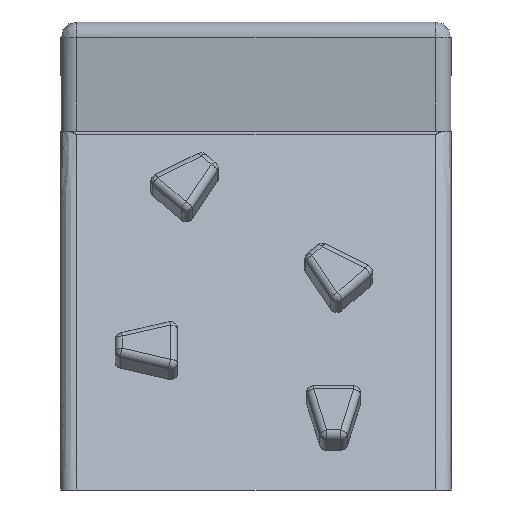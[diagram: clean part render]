
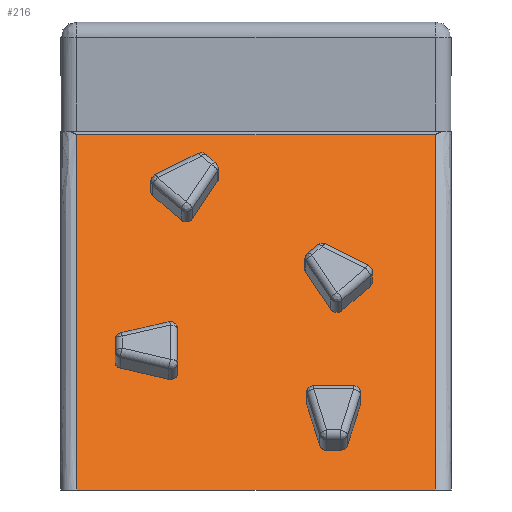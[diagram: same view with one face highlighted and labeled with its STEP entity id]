
A CAD part, front view. The second image highlights one B-rep face of the part: STEP entity #216.
In plain terms, the highlighted planar face has unit normal (0, -0.854, 0.52).
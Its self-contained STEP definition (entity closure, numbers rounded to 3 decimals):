
#216=ADVANCED_FACE('',(#383),#2236,.T.);
#383=FACE_OUTER_BOUND('',#550,.T.);
#550=EDGE_LOOP('',(#1183,#1184,#1185,#1186));
#1183=ORIENTED_EDGE('',*,*,#1559,.T.);
#1184=ORIENTED_EDGE('',*,*,#1567,.T.);
#1185=ORIENTED_EDGE('',*,*,#1554,.F.);
#1186=ORIENTED_EDGE('',*,*,#1566,.T.);
#1554=EDGE_CURVE('',#2119,#2116,#1665,.T.);
#1559=EDGE_CURVE('',#2124,#2121,#1669,.T.);
#1566=EDGE_CURVE('',#2119,#2124,#1907,.T.);
#1567=EDGE_CURVE('',#2121,#2116,#1908,.T.);
#1665=(
BOUNDED_CURVE()
B_SPLINE_CURVE(3,(#4246,#4247,#4248,#4249),.UNSPECIFIED.,.F.,.F.)
B_SPLINE_CURVE_WITH_KNOTS((4,4),(-533.459,0.),.UNSPECIFIED.)
CURVE()
GEOMETRIC_REPRESENTATION_ITEM()
RATIONAL_B_SPLINE_CURVE((1.,1.,1.,1.))
REPRESENTATION_ITEM('')
);
#1669=(
BOUNDED_CURVE()
B_SPLINE_CURVE(3,(#4276,#4277,#4278,#4279),.UNSPECIFIED.,.F.,.F.)
B_SPLINE_CURVE_WITH_KNOTS((4,4),(-533.459,0.),.UNSPECIFIED.)
CURVE()
GEOMETRIC_REPRESENTATION_ITEM()
RATIONAL_B_SPLINE_CURVE((1.,1.,1.,1.))
REPRESENTATION_ITEM('')
);
#1907=B_SPLINE_CURVE_WITH_KNOTS('',1,(#4292,#4293),.UNSPECIFIED.,.F.,.F.,
(2,2),(20.,480.),.UNSPECIFIED.);
#1908=B_SPLINE_CURVE_WITH_KNOTS('',1,(#4294,#4295),.UNSPECIFIED.,.F.,.F.,
(2,2),(20.,480.),.UNSPECIFIED.);
#2116=VERTEX_POINT('',#4209);
#2119=VERTEX_POINT('',#4212);
#2121=VERTEX_POINT('',#4214);
#2124=VERTEX_POINT('',#4217);
#2236=PLANE('',#2423);
#2423=AXIS2_PLACEMENT_3D('',#4197,#2537,$);
#2537=DIRECTION('',(0.,-0.854,0.52));
#4197=CARTESIAN_POINT('',(-250.,-270.,460.));
#4209=CARTESIAN_POINT('',(230.,-550.,0.));
#4212=CARTESIAN_POINT('',(230.,-272.63,455.68));
#4214=CARTESIAN_POINT('',(-230.,-550.,0.));
#4217=CARTESIAN_POINT('',(-230.,-272.63,455.68));
#4246=CARTESIAN_POINT('',(230.,-272.63,455.68));
#4247=CARTESIAN_POINT('',(230.,-365.087,303.786));
#4248=CARTESIAN_POINT('',(230.,-457.543,151.893));
#4249=CARTESIAN_POINT('',(230.,-550.,0.));
#4276=CARTESIAN_POINT('',(-230.,-272.63,455.68));
#4277=CARTESIAN_POINT('',(-230.,-365.087,303.786));
#4278=CARTESIAN_POINT('',(-230.,-457.543,151.893));
#4279=CARTESIAN_POINT('',(-230.,-550.,0.));
#4292=CARTESIAN_POINT('',(230.,-272.63,455.68));
#4293=CARTESIAN_POINT('',(-230.,-272.63,455.68));
#4294=CARTESIAN_POINT('',(-230.,-550.,0.));
#4295=CARTESIAN_POINT('',(230.,-550.,0.));
